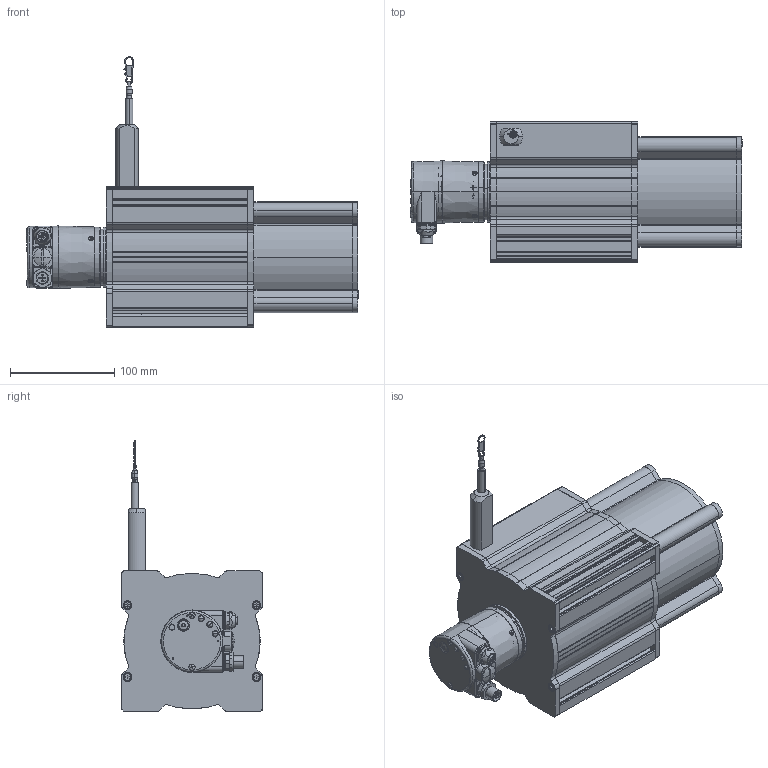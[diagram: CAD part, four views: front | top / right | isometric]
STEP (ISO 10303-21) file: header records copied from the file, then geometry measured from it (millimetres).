
FILE_DESCRIPTION (( 'STEP AP214' ), '1' );
FILE_NAME ('D8.4D1.4000.6822.2113.STEP', '2009-05-13T08:15:42', ( 'admin' ), ( 'Fritz Kübler GmbH' ), 'SwSTEP 2.0', 'SolidWorks 2009', '' );
FILE_SCHEMA (( 'AUTOMOTIVE_DESIGN' ));
Length unit declared in the file: millimetre
Products named in the file (1): D8.4D1.4000.6822.2113
Bounding box: 319.15 x 135 x 260.32 mm (x, y, z)
Volume: 783287.6 mm3; surface area: 437897.4 mm2
Topology: 38 solids, 38 shells, 2225 faces, 5739 edges, 3631 vertices
Faces by surface type: cylinder 980, plane 692, cone 303, torus 167, bspline 50, sphere 33
Entity records: 97343 total; most frequent: CARTESIAN_POINT 17270, DIRECTION 12223, ORIENTED_EDGE 11298, EDGE_CURVE 5649, AXIS2_PLACEMENT_3D 4843, VERTEX_POINT 3618, CIRCLE 2667, VECTOR 2537
